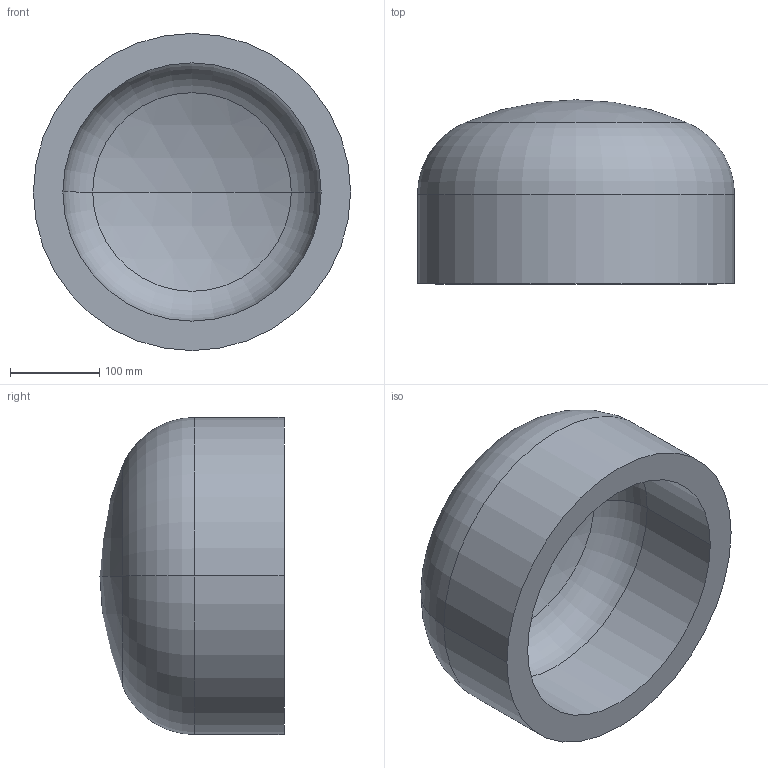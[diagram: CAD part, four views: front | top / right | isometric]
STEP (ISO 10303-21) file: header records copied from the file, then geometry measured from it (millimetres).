
FILE_DESCRIPTION (( 'STEP AP203' ), '1' );
FILE_NAME ('DIN 28013 Korbbogenform_-_Boden DIN 28013 - 355,6 x 100 - I - s=33.step', '2016-07-01T07:47:43', ( '' ), ( '' ), 'SwSTEP 2.0', 'SolidWorks 2013', '' );
FILE_SCHEMA (( 'CONFIG_CONTROL_DESIGN' ));
Length unit declared in the file: millimetre
Products named in the file (1): DIN 28013 Korbbogenform_-_Boden DIN 28013 - 355,6 x 100 - I - s=33
Bounding box: 355.6 x 206.34 x 355.6 mm (x, y, z)
Volume: 7392770 mm3; surface area: 483772.2 mm2
Topology: 1 solids, 1 shells, 13 faces, 24 edges, 14 vertices
Faces by surface type: torus 4, cylinder 4, sphere 4, plane 1
Entity records: 407 total; most frequent: DIRECTION 72, CARTESIAN_POINT 52, ORIENTED_EDGE 48, AXIS2_PLACEMENT_3D 34, EDGE_CURVE 24, CIRCLE 20, EDGE_LOOP 14, VERTEX_POINT 14
